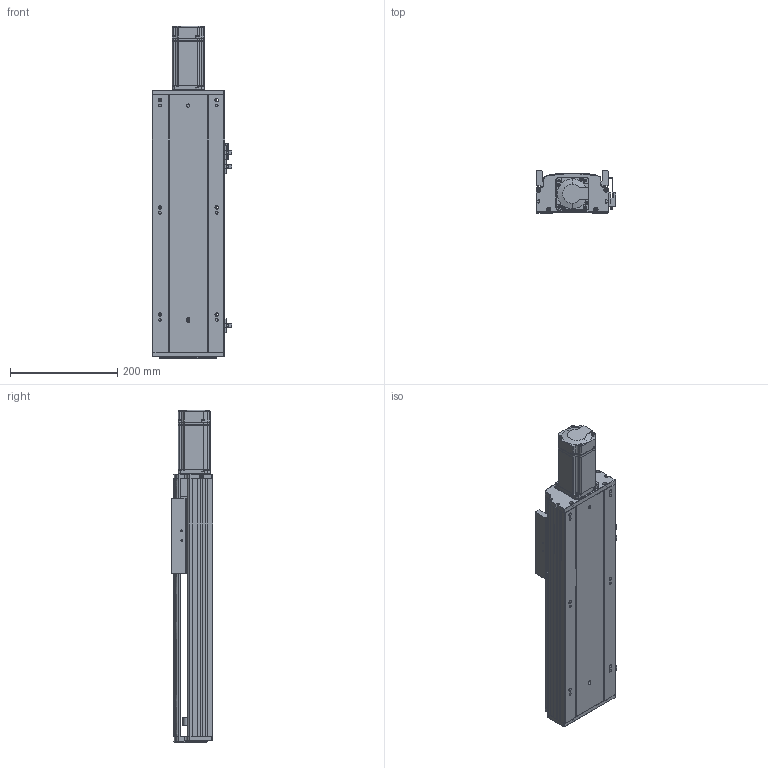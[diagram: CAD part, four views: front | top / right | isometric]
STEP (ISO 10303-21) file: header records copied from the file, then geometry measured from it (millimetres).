
FILE_DESCRIPTION (( 'STEP AP203' ), '1' );
FILE_NAME ('RY140Q-L2010-700-MK.SLDASM_0250.step', '2021-05-27T03:21:27', ( '盈信电脑' ), ( '东莞市道滘镇水果街19号' ), 'SwSTEP 2.0', 'SolidWorks 2016', '' );
FILE_SCHEMA (( 'CONFIG_CONTROL_DESIGN' ));
Length unit declared in the file: millimetre
Products named in the file (14): RY140ヶ裔啣; RY140Q-700-MK倰第奻裔啣_0250; RY140Q萇儂傷盓傅釱FK12(80.5酗M5); 滅袉蝶18-10; RY140Q-700-MK倰第菁釱_0250; 滅袉蝶18-15; RY140Q-L2010-700-MK.SLDASM_0250; 鞠褒坶踡蹟譫BK12 ; 覜茼ん672; 15; RY140Q臏賑輸(20佪裝-J); RY120外置感应片(140共用）; RY140綴裔啣; 侂狟400W侜督萇儂
Assembly tree (16 placements, depth 3):
  RY140Q-L2010-700-MK.SLDASM_0250
    RY140Q-700-MK倰第菁釱_0250
    RY140Q臏賑輸(20佪裝-J)
    RY140Q-700-MK倰第奻裔啣_0250
    RY140ヶ裔啣
    侂狟400W侜督萇儂
      15
    鞠褒坶踡蹟譫BK12 
    RY140綴裔啣
    覜茼ん672  x3
    RY120外置感应片(140共用）
    RY140Q萇儂傷盓傅釱FK12(80.5酗M5)
    滅袉蝶18-10
    滅袉蝶18-15  x2
Bounding box: 148.7 x 78 x 619.5 mm (x, y, z)
Volume: 2051671.2 mm3; surface area: 674103.4 mm2
Topology: 15 solids, 15 shells, 1973 faces, 5412 edges, 3483 vertices
Faces by surface type: plane 1074, cylinder 650, cone 164, bspline 85
Entity records: 65079 total; most frequent: CARTESIAN_POINT 15620, ORIENTED_EDGE 10188, DIRECTION 9664, EDGE_CURVE 5094, VECTOR 3360, LINE 3360, VERTEX_POINT 3343, AXIS2_PLACEMENT_3D 3152
